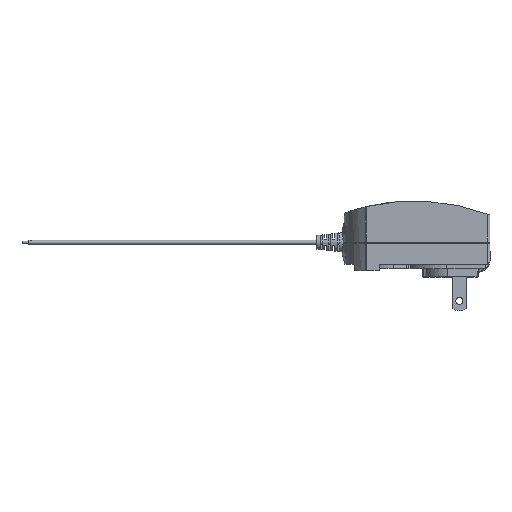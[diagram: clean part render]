
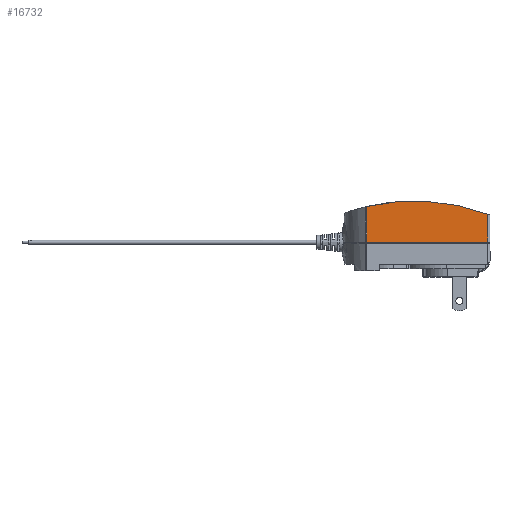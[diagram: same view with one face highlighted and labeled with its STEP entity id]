
A CAD part, top view. The second image highlights one B-rep face of the part: STEP entity #16732.
In plain terms, the highlighted planar face has unit normal (0, 0, 1).
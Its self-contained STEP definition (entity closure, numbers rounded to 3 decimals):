
#2006 = VECTOR ( 'NONE', #4898, 1000. ) ;
#2322 = VERTEX_POINT ( 'NONE', #37461 ) ;
#2856 = DIRECTION ( 'NONE',  ( 0., 0., -1. ) ) ;
#4352 = CARTESIAN_POINT ( 'NONE',  ( 34.85, 30., 22.5 ) ) ;
#4898 = DIRECTION ( 'NONE',  ( -1., 0., 0. ) ) ;
#5679 = DIRECTION ( 'NONE',  ( 0., 0., 1. ) ) ;
#6872 = FACE_OUTER_BOUND ( 'NONE', #35899, .T. ) ;
#10730 = LINE ( 'NONE', #21301, #2006 ) ;
#12010 = AXIS2_PLACEMENT_3D ( 'NONE', #22568, #2856, #25844 ) ;
#14781 = LINE ( 'NONE', #16028, #31194 ) ;
#15145 = ORIENTED_EDGE ( 'NONE', *, *, #35256, .T. ) ;
#15823 = PLANE ( 'NONE',  #12010 ) ;
#16028 = CARTESIAN_POINT ( 'NONE',  ( -22.716, 35.5, 22.5 ) ) ;
#16732 = ADVANCED_FACE ( 'NONE', ( #6872 ), #15823, .F. ) ;
#17352 = VERTEX_POINT ( 'NONE', #34886 ) ;
#18139 = CIRCLE ( 'NONE', #38757, 100. ) ;
#18299 = ORIENTED_EDGE ( 'NONE', *, *, #20533, .T. ) ;
#19335 = DIRECTION ( 'NONE',  ( 0., -1., 0. ) ) ;
#20533 = EDGE_CURVE ( 'NONE', #30437, #2322, #18139, .T. ) ;
#21301 = CARTESIAN_POINT ( 'NONE',  ( -35.85, 10.5, 22.5 ) ) ;
#22143 = LINE ( 'NONE', #4352, #38494 ) ;
#22568 = CARTESIAN_POINT ( 'NONE',  ( -33.85, 2., 22.5 ) ) ;
#24034 = DIRECTION ( 'NONE',  ( 0., -1., 0. ) ) ;
#24985 = ORIENTED_EDGE ( 'NONE', *, *, #33945, .F. ) ;
#25340 = CARTESIAN_POINT ( 'NONE',  ( 0., -70., 22.5 ) ) ;
#25844 = DIRECTION ( 'NONE',  ( -1., 0., 0. ) ) ;
#26530 = ORIENTED_EDGE ( 'NONE', *, *, #29983, .F. ) ;
#28633 = DIRECTION ( 'NONE',  ( 1., 0., 0. ) ) ;
#29983 = EDGE_CURVE ( 'NONE', #30437, #17352, #22143, .T. ) ;
#30437 = VERTEX_POINT ( 'NONE', #30976 ) ;
#30976 = CARTESIAN_POINT ( 'NONE',  ( 34.85, 23.731, 22.5 ) ) ;
#31194 = VECTOR ( 'NONE', #19335, 1000. ) ;
#33945 = EDGE_CURVE ( 'NONE', #17352, #40349, #10730, .T. ) ;
#34886 = CARTESIAN_POINT ( 'NONE',  ( 34.85, 10.5, 22.5 ) ) ;
#35256 = EDGE_CURVE ( 'NONE', #2322, #40349, #14781, .T. ) ;
#35899 = EDGE_LOOP ( 'NONE', ( #15145, #24985, #26530, #18299 ) ) ;
#36458 = CARTESIAN_POINT ( 'NONE',  ( -22.716, 10.5, 22.5 ) ) ;
#37461 = CARTESIAN_POINT ( 'NONE',  ( -22.716, 27.386, 22.5 ) ) ;
#38494 = VECTOR ( 'NONE', #24034, 1000. ) ;
#38757 = AXIS2_PLACEMENT_3D ( 'NONE', #25340, #5679, #28633 ) ;
#40349 = VERTEX_POINT ( 'NONE', #36458 ) ;
